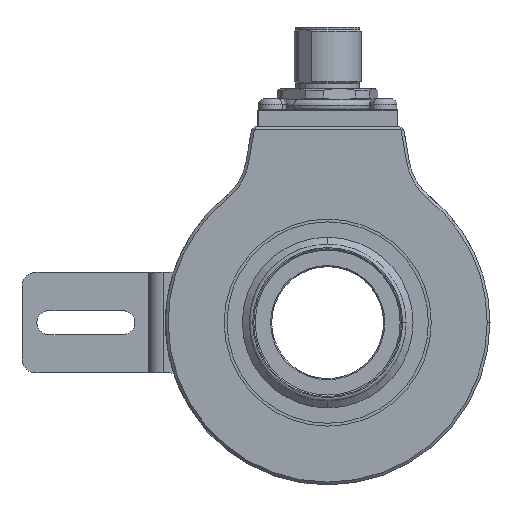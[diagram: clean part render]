
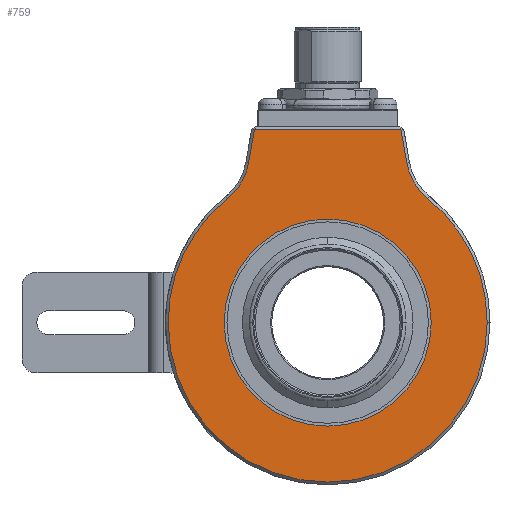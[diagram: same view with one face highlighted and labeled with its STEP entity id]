
A CAD part, left-side view. The second image highlights one B-rep face of the part: STEP entity #759.
In plain terms, the highlighted planar face has unit normal (-1, 0, 0).
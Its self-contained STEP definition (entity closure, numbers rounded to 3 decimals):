
#759 = ADVANCED_FACE ( 'NONE', ( #20744, #8323 ), #22613, .T. ) ;
#843 = DIRECTION ( 'NONE',  ( 0., 1., 0. ) ) ;
#951 = DIRECTION ( 'NONE',  ( 1., 0., 0. ) ) ;
#1260 = EDGE_CURVE ( 'NONE', #1482, #7795, #8311, .T. ) ;
#1300 = DIRECTION ( 'NONE',  ( 1., 0., 0. ) ) ;
#1482 = VERTEX_POINT ( 'NONE', #2581 ) ;
#1483 = CIRCLE ( 'NONE', #10444, 28.5 ) ;
#1686 = CARTESIAN_POINT ( 'NONE',  ( -27., 18.5, 0. ) ) ;
#1805 = CARTESIAN_POINT ( 'NONE',  ( -27., 14.131, 28.544 ) ) ;
#2427 = ORIENTED_EDGE ( 'NONE', *, *, #11628, .T. ) ;
#2462 = ORIENTED_EDGE ( 'NONE', *, *, #20641, .T. ) ;
#2581 = CARTESIAN_POINT ( 'NONE',  ( -27., -17.883, 22.191 ) ) ;
#2807 = ORIENTED_EDGE ( 'NONE', *, *, #7978, .T. ) ;
#2951 = VERTEX_POINT ( 'NONE', #18247 ) ;
#3213 = DIRECTION ( 'NONE',  ( 1., 0., 0. ) ) ;
#3346 = EDGE_CURVE ( 'NONE', #13874, #6848, #12530, .T. ) ;
#3556 = DIRECTION ( 'NONE',  ( 0., 1., 0. ) ) ;
#3785 = CARTESIAN_POINT ( 'NONE',  ( -27., 28.5, 0. ) ) ;
#3811 = CARTESIAN_POINT ( 'NONE',  ( -27., 0., 0. ) ) ;
#3932 = AXIS2_PLACEMENT_3D ( 'NONE', #3811, #14453, #8818 ) ;
#4794 = CARTESIAN_POINT ( 'NONE',  ( -27., 0., 0. ) ) ;
#5025 = ORIENTED_EDGE ( 'NONE', *, *, #10852, .T. ) ;
#5075 = AXIS2_PLACEMENT_3D ( 'NONE', #4794, #22572, #8057 ) ;
#5907 = VECTOR ( 'NONE', #17971, 1000. ) ;
#6586 = CIRCLE ( 'NONE', #13001, 10.5 ) ;
#6603 = VERTEX_POINT ( 'NONE', #1805 ) ;
#6643 = VECTOR ( 'NONE', #18855, 1000. ) ;
#6820 = AXIS2_PLACEMENT_3D ( 'NONE', #19213, #1300, #8407 ) ;
#6848 = VERTEX_POINT ( 'NONE', #3785 ) ;
#7561 = ORIENTED_EDGE ( 'NONE', *, *, #3346, .T. ) ;
#7795 = VERTEX_POINT ( 'NONE', #19252 ) ;
#7821 = VERTEX_POINT ( 'NONE', #15613 ) ;
#7978 = EDGE_CURVE ( 'NONE', #7795, #8108, #22855, .T. ) ;
#7987 = ORIENTED_EDGE ( 'NONE', *, *, #10635, .T. ) ;
#8057 = DIRECTION ( 'NONE',  ( 0., -1., 0. ) ) ;
#8108 = VERTEX_POINT ( 'NONE', #9349 ) ;
#8179 = LINE ( 'NONE', #22244, #6643 ) ;
#8311 = CIRCLE ( 'NONE', #6820, 10.5 ) ;
#8323 = FACE_BOUND ( 'NONE', #12352, .T. ) ;
#8373 = DIRECTION ( 'NONE',  ( 0., 1., 0. ) ) ;
#8407 = DIRECTION ( 'NONE',  ( 0., -1., 0. ) ) ;
#8462 = DIRECTION ( 'NONE',  ( 0., -1., 0. ) ) ;
#8818 = DIRECTION ( 'NONE',  ( 0., -1., 0. ) ) ;
#8933 = ORIENTED_EDGE ( 'NONE', *, *, #17822, .T. ) ;
#9349 = CARTESIAN_POINT ( 'NONE',  ( -27., -13.08, 34.5 ) ) ;
#9931 = EDGE_LOOP ( 'NONE', ( #2807, #20609, #2462, #8933, #7561, #5025, #21062, #22680 ) ) ;
#10123 = DIRECTION ( 'NONE',  ( -1., 0., 0. ) ) ;
#10444 = AXIS2_PLACEMENT_3D ( 'NONE', #13757, #10123, #8462 ) ;
#10635 = EDGE_CURVE ( 'NONE', #16293, #2951, #20899, .T. ) ;
#10852 = EDGE_CURVE ( 'NONE', #6848, #7821, #1483, .T. ) ;
#11628 = EDGE_CURVE ( 'NONE', #2951, #16293, #12071, .T. ) ;
#12071 = CIRCLE ( 'NONE', #19906, 18.5 ) ;
#12093 = CARTESIAN_POINT ( 'NONE',  ( -27., 29., 0. ) ) ;
#12352 = EDGE_LOOP ( 'NONE', ( #7987, #2427 ) ) ;
#12448 = DIRECTION ( 'NONE',  ( -1., 0., 0. ) ) ;
#12530 = CIRCLE ( 'NONE', #3932, 28.5 ) ;
#13001 = AXIS2_PLACEMENT_3D ( 'NONE', #17514, #3213, #14650 ) ;
#13757 = CARTESIAN_POINT ( 'NONE',  ( -27., 0., 0. ) ) ;
#13874 = VERTEX_POINT ( 'NONE', #19465 ) ;
#13958 = DIRECTION ( 'NONE',  ( 0., -1., 0. ) ) ;
#14207 = LINE ( 'NONE', #19597, #17846 ) ;
#14453 = DIRECTION ( 'NONE',  ( -1., 0., 0. ) ) ;
#14650 = DIRECTION ( 'NONE',  ( 0., -1., 0. ) ) ;
#14691 = EDGE_CURVE ( 'NONE', #8108, #21950, #14207, .T. ) ;
#15173 = CIRCLE ( 'NONE', #5075, 28.5 ) ;
#15221 = CARTESIAN_POINT ( 'NONE',  ( -27., 0., 0. ) ) ;
#15305 = CARTESIAN_POINT ( 'NONE',  ( -27., 13.08, 34.5 ) ) ;
#15613 = CARTESIAN_POINT ( 'NONE',  ( -27., -28.5, 0. ) ) ;
#15886 = CARTESIAN_POINT ( 'NONE',  ( -27., 0., 0. ) ) ;
#16293 = VERTEX_POINT ( 'NONE', #1686 ) ;
#16771 = EDGE_CURVE ( 'NONE', #7821, #1482, #15173, .T. ) ;
#17514 = CARTESIAN_POINT ( 'NONE',  ( -27., 24.471, 30.367 ) ) ;
#17822 = EDGE_CURVE ( 'NONE', #6603, #13874, #6586, .T. ) ;
#17846 = VECTOR ( 'NONE', #3556, 1000. ) ;
#17971 = DIRECTION ( 'NONE',  ( 0., 0.174, 0.985 ) ) ;
#18247 = CARTESIAN_POINT ( 'NONE',  ( -27., -18.5, 0. ) ) ;
#18855 = DIRECTION ( 'NONE',  ( 0., 0.174, -0.985 ) ) ;
#19213 = CARTESIAN_POINT ( 'NONE',  ( -27., -24.471, 30.367 ) ) ;
#19252 = CARTESIAN_POINT ( 'NONE',  ( -27., -14.131, 28.544 ) ) ;
#19434 = AXIS2_PLACEMENT_3D ( 'NONE', #15886, #21139, #8373 ) ;
#19465 = CARTESIAN_POINT ( 'NONE',  ( -27., 17.883, 22.191 ) ) ;
#19597 = CARTESIAN_POINT ( 'NONE',  ( -27., 29., 34.5 ) ) ;
#19906 = AXIS2_PLACEMENT_3D ( 'NONE', #15221, #951, #843 ) ;
#20263 = AXIS2_PLACEMENT_3D ( 'NONE', #12093, #12448, #13958 ) ;
#20609 = ORIENTED_EDGE ( 'NONE', *, *, #14691, .T. ) ;
#20641 = EDGE_CURVE ( 'NONE', #21950, #6603, #8179, .T. ) ;
#20744 = FACE_OUTER_BOUND ( 'NONE', #9931, .T. ) ;
#20899 = CIRCLE ( 'NONE', #19434, 18.5 ) ;
#21062 = ORIENTED_EDGE ( 'NONE', *, *, #16771, .T. ) ;
#21139 = DIRECTION ( 'NONE',  ( 1., 0., 0. ) ) ;
#21449 = CARTESIAN_POINT ( 'NONE',  ( -27., -17.711, 8.236 ) ) ;
#21950 = VERTEX_POINT ( 'NONE', #15305 ) ;
#22244 = CARTESIAN_POINT ( 'NONE',  ( -27., 19.46, -1.682 ) ) ;
#22572 = DIRECTION ( 'NONE',  ( -1., 0., 0. ) ) ;
#22613 = PLANE ( 'NONE',  #20263 ) ;
#22680 = ORIENTED_EDGE ( 'NONE', *, *, #1260, .T. ) ;
#22855 = LINE ( 'NONE', #21449, #5907 ) ;
